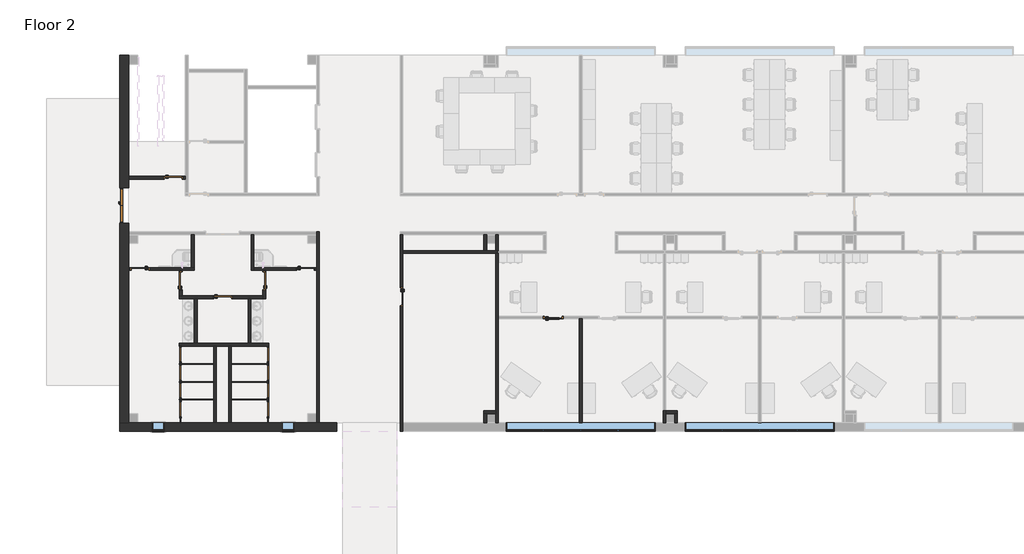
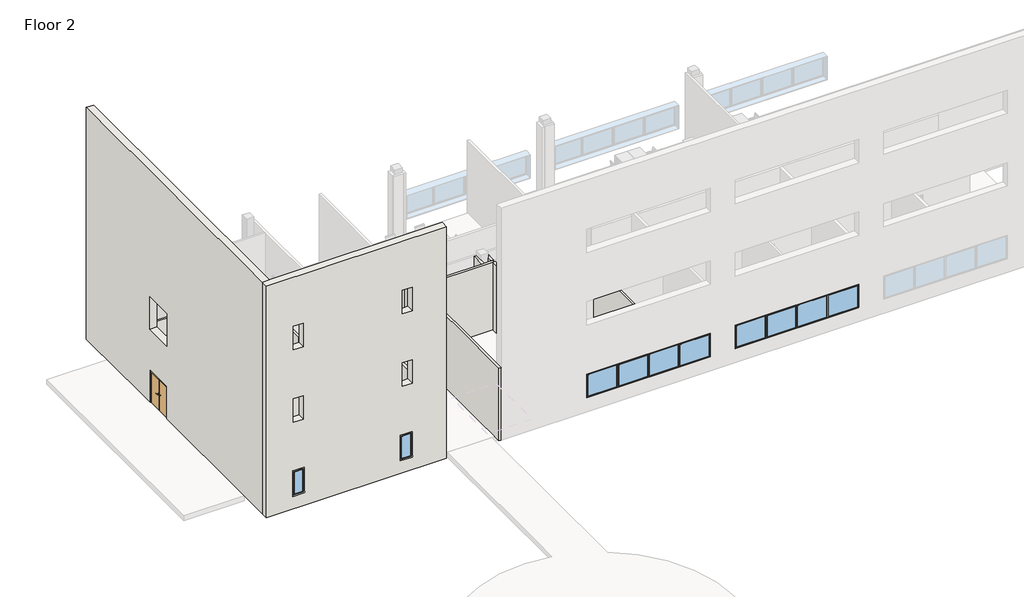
# One storey, part 1 of 6: 41 walls, 17 doors, 4 windows.
"""IFC4 building model written with IfcOpenShell, lengths in millimetres."""

from ifc_helpers import new_model, si_unit, frame, origin, place, context, project, spatial, polyline, outline, extrude, faceted_brep, transform, mapped, element, save
from components import door_efda3cbc, door_36f17018, door_a46f4f49, door_4cfbdd5f, door_b03708da, door_cef5613e, window_casement_multi_sash_horizontal_25_x_5ft_0e5d08e3, window_69ce9bab

model = new_model("IFC4")

# Units and contexts
model_context = context("Model", 3, world=origin())
ifc_project = project(units=[si_unit("LENGTHUNIT", "METRE", prefix="MILLI")], contexts=[model_context])

# Site, building, storey
site = spatial("IfcSite", under=ifc_project)
building = spatial("IfcBuilding", under=site)
storey = spatial("IfcBuildingStorey", under=building, Name="Floor 2", Elevation=5486.4)

# Doors
placement = place(None, origin())
door_shape = door_efda3cbc(model_context)
element("IfcDoor", 1, ObjectType="Door-Passage-Double-Flush : 68\" x 80\"", at=placement, inside=storey, context=model_context, shape_type="MappedRepresentation", body=[
    mapped(door_shape, transform((-3186.4602165, 49707.011889, 5486.4), x_axis=(0.0, 1.0, 0.0), y_axis=(-1.0, 0.0, 0.0), z_axis=(0.0, 0.0, 1.0))),
])
door_2_shape = door_36f17018(model_context)
element("IfcDoor", 2, ObjectType="Door-Passage-Single-Flush : 36\" x 84\"", at=placement, inside=storey, context=model_context, shape_type="MappedRepresentation", body=[
    mapped(door_2_shape, transform((3964.0192024, 45858.911889, 5486.4), x_axis=(0.0, 1.0, 0.0), y_axis=(-1.0, 0.0, 0.0), z_axis=(0.0, 0.0, 1.0))),
])
element("IfcDoor", 3, ObjectType="Door-Passage-Single-Flush : 36\" x 84\"", at=placement, inside=storey, context=model_context, shape_type="MappedRepresentation", body=[
    mapped(door_2_shape, transform((-2380.0102165, 46455.811889, 5486.4), x_axis=(-1.0, 0.0, 0.0), y_axis=(0.0, -1.0, 0.0), z_axis=(0.0, 0.0, 1.0))),
])
door_3_shape = door_a46f4f49(model_context)
element("IfcDoor", 4, ObjectType="Door-Passage-Single-Flush : 36\" x 84\"", at=placement, inside=storey, context=model_context, shape_type="MappedRepresentation", body=[
    mapped(door_3_shape, transform((-684.1807976, 51116.711889, 5486.4), x_axis=(1.0, 0.0, 0.0), y_axis=(0.0, 1.0, 0.0), z_axis=(0.0, 0.0, 1.0))),
])
element("IfcDoor", 5, ObjectType="Door-Passage-Single-Flush : 36\" x 84\"", at=placement, inside=storey, context=model_context, shape_type="MappedRepresentation", body=[
    mapped(door_3_shape, transform((-290.4807976, 45852.561889, 5486.4), x_axis=(0.0, 1.0, 0.0), y_axis=(-1.0, 0.0, 0.0), z_axis=(0.0, 0.0, 1.0))),
])
element("IfcDoor", 6, ObjectType="Door-Passage-Single-Flush : 36\" x 84\"", at=placement, inside=storey, context=model_context, shape_type="MappedRepresentation", body=[
    mapped(door_3_shape, transform((6072.2192024, 46455.811889, 5486.4), x_axis=(1.0, 0.0, 0.0), y_axis=(0.0, 1.0, 0.0), z_axis=(0.0, 0.0, 1.0))),
])
element("IfcDoor", 7, ObjectType="Door-Passage-Single-Flush : 36\" x 84\"", at=placement, inside=storey, context=model_context, shape_type="MappedRepresentation", body=[
    mapped(door_3_shape, transform((1836.7692024, 45008.011889, 5486.4), x_axis=(1.0, 0.0, 0.0), y_axis=(0.0, 1.0, 0.0), z_axis=(0.0, 0.0, 1.0))),
])
element("IfcDoor", 8, ObjectType="Door-Passage-Single-Flush : 36\" x 84\"", at=placement, inside=storey, context=model_context, shape_type="MappedRepresentation", body=[
    mapped(door_3_shape, transform((10974.4192024, 45046.111889, 5486.4), x_axis=(0.0, -1.0, 0.0), y_axis=(1.0, 0.0, 0.0), z_axis=(0.0, 0.0, 1.0))),
])
door_4_shape = door_4cfbdd5f(model_context)
element("IfcDoor", 9, ObjectType="Door-Passage-Single-Full_Lite : 36\" x 84\"", at=placement, inside=storey, context=model_context, shape_type="MappedRepresentation", body=[
    mapped(door_4_shape, transform((18727.7692024, 43985.661889, 5486.4), x_axis=(1.0, 0.0, 0.0), y_axis=(0.0, 1.0, 0.0), z_axis=(0.0, 0.0, 1.0))),
])
door_5_shape = door_b03708da(model_context)
element("IfcDoor", 10, ObjectType="Single-Flush : 30\" x 80\"", at=placement, inside=storey, context=model_context, shape_type="MappedRepresentation", body=[
    mapped(door_5_shape, transform((-322.2307976, 42096.536889, 5486.4), x_axis=(0.0, -1.0, 0.0), y_axis=(1.0, 0.0, 0.0), z_axis=(0.0, 0.0, 1.0))),
])
element("IfcDoor", 11, ObjectType="Single-Flush : 30\" x 80\"", at=placement, inside=storey, context=model_context, shape_type="MappedRepresentation", body=[
    mapped(door_5_shape, transform((-322.2307976, 41169.436889, 5486.4), x_axis=(0.0, -1.0, 0.0), y_axis=(1.0, 0.0, 0.0), z_axis=(0.0, 0.0, 1.0))),
])
element("IfcDoor", 12, ObjectType="Single-Flush : 30\" x 80\"", at=placement, inside=storey, context=model_context, shape_type="MappedRepresentation", body=[
    mapped(door_5_shape, transform((-322.2307976, 40255.036889, 5486.4), x_axis=(0.0, -1.0, 0.0), y_axis=(1.0, 0.0, 0.0), z_axis=(0.0, 0.0, 1.0))),
])
element("IfcDoor", 13, ObjectType="Single-Flush : 30\" x 80\"", at=placement, inside=storey, context=model_context, shape_type="MappedRepresentation", body=[
    mapped(door_5_shape, transform((-322.2307976, 39296.186889, 5486.4), x_axis=(0.0, -1.0, 0.0), y_axis=(1.0, 0.0, 0.0), z_axis=(0.0, 0.0, 1.0))),
])
door_6_shape = door_cef5613e(model_context)
element("IfcDoor", 14, ObjectType="Single-Flush : 30\" x 80\"", at=placement, inside=storey, context=model_context, shape_type="MappedRepresentation", body=[
    mapped(door_6_shape, transform((4148.1692024, 42096.536889, 5486.4), x_axis=(0.0, -1.0, 0.0), y_axis=(1.0, 0.0, 0.0), z_axis=(0.0, 0.0, 1.0))),
])
element("IfcDoor", 15, ObjectType="Single-Flush : 30\" x 80\"", at=placement, inside=storey, context=model_context, shape_type="MappedRepresentation", body=[
    mapped(door_6_shape, transform((4148.1692024, 41169.436889, 5486.4), x_axis=(0.0, -1.0, 0.0), y_axis=(1.0, 0.0, 0.0), z_axis=(0.0, 0.0, 1.0))),
])
element("IfcDoor", 16, ObjectType="Single-Flush : 30\" x 80\"", at=placement, inside=storey, context=model_context, shape_type="MappedRepresentation", body=[
    mapped(door_6_shape, transform((4148.1692024, 40255.036889, 5486.4), x_axis=(0.0, -1.0, 0.0), y_axis=(1.0, 0.0, 0.0), z_axis=(0.0, 0.0, 1.0))),
])
element("IfcDoor", 17, ObjectType="Single-Flush : 30\" x 80\"", at=placement, inside=storey, context=model_context, shape_type="MappedRepresentation", body=[
    mapped(door_6_shape, transform((4148.1692024, 39296.186889, 5486.4), x_axis=(0.0, -1.0, 0.0), y_axis=(1.0, 0.0, 0.0), z_axis=(0.0, 0.0, 1.0))),
])

# Walls
element("IfcWall", 18, ObjectType="Interior - 5 1/2\" Partition (1-hr)", at=placement, inside=storey, context=model_context, shape_type="Brep", body=[
    faceted_brep([(6777.0692024, 38618.324389, 5486.4), (6777.0692024, 48360.811889, 5486.4), (6777.0692024, 48360.811889, 10210.8), (6777.0692024, 38618.324389, 10210.8), (6637.3692024, 38618.324389, 5486.4), (6637.3692024, 38618.324389, 10210.8), (6637.3692024, 48360.811889, 10210.8), (6637.3692024, 48360.811889, 9906.0), (6637.3692024, 48360.811889, 5486.4), (6637.3692024, 48221.111889, 5486.4), (6637.3692024, 46532.011889, 5486.4), (6637.3692024, 46392.311889, 5486.4)], [[[0, 1, 2, 3]], [[4, 5, 6, 7, 8, 9, 10, 11]], [[1, 0, 4, 11, 10, 9, 8]], [[3, 2, 6, 5]], [[2, 1, 8, 7, 6]], [[0, 3, 5, 4]]]),
])
element("IfcWall", 19, ObjectType="Interior - 5 1/2\" Partition (1-hr)", at=placement, inside=storey, context=model_context, shape_type="SweptSolid", body=[
    extrude(outline(polyline([(7721.6, -176.1807976), (5486.4, -176.1807976), (5486.4, -61.8807976), (10210.8, -61.8807976), (10210.8, -2965.7977165), (5486.4, -2965.7977165), (5486.4, -1192.1807976), (7721.6, -1192.1807976), (7721.6, -176.1807976)])), frame((0.0, 51053.211889, 0.0), z_axis=(0.0, 1.0, 0.0), x_axis=(0.0, 0.0, 1.0)), (0.0, 0.0, 1.0), 139.7),
])
element("IfcWall", 20, ObjectType="Interior - 5 1/2\" Partition (1-hr)", at=placement, inside=storey, context=model_context, shape_type="Brep", body=[
    faceted_brep([(3290.9192024, 48221.111889, 5486.4), (3290.9192024, 46392.311889, 5486.4), (3290.9192024, 46392.311889, 9906.0), (3290.9192024, 48221.111889, 9906.0), (3430.6192024, 48221.111889, 5486.4), (3430.6192024, 48221.111889, 9906.0), (3430.6192024, 46532.011889, 9906.0), (3430.6192024, 46392.311889, 9906.0), (3430.6192024, 46392.311889, 5486.4), (3430.6192024, 46532.011889, 5486.4)], [[[0, 1, 2, 3]], [[4, 5, 6, 7, 8, 9]], [[1, 0, 4, 9, 8]], [[2, 1, 8, 7]], [[0, 3, 5, 4]], [[3, 2, 7, 6, 5]]]),
])
element("IfcWall", 21, ObjectType="Interior - 5 1/2\" Partition (1-hr)", at=placement, inside=storey, context=model_context, shape_type="Brep", body=[
    faceted_brep([(6580.2192024, 46392.311889, 7721.6), (6580.2192024, 46392.311889, 5486.4), (6637.3692024, 46392.311889, 5486.4), (6637.3692024, 46392.311889, 9906.0), (4040.2192024, 46392.311889, 9906.0), (3900.5192024, 46392.311889, 9906.0), (3430.6192024, 46392.311889, 9906.0), (3430.6192024, 46392.311889, 5486.4), (3900.5192024, 46392.311889, 5486.4), (4040.2192024, 46392.311889, 5486.4), (5564.2192024, 46392.311889, 5486.4), (5564.2192024, 46392.311889, 7721.6), (6637.3692024, 46532.011889, 5486.4), (6580.2192024, 46532.011889, 5486.4), (6580.2192024, 46532.011889, 7721.6), (5564.2192024, 46532.011889, 7721.6), (5564.2192024, 46532.011889, 5486.4), (3430.6192024, 46532.011889, 5486.4), (3430.6192024, 46532.011889, 9906.0), (6637.3692024, 46532.011889, 9906.0)], [[[0, 1, 2, 3, 4, 5, 6, 7, 8, 9, 10, 11]], [[12, 13, 14, 15, 16, 17, 18, 19]], [[2, 1, 13, 12]], [[10, 9, 8, 7, 17, 16]], [[7, 6, 18, 17]], [[3, 2, 12, 19]], [[6, 5, 4, 3, 19, 18]], [[14, 13, 1, 0]], [[15, 14, 0, 11]], [[16, 15, 11, 10]]]),
])
element("IfcWall", 22, ObjectType="Interior - 5 1/2\" Partition (1-hr)", at=placement, inside=storey, context=model_context, shape_type="Brep", body=[
    faceted_brep([(-2965.7977165, 46392.311889, 10210.8), (382.6192024, 46392.311889, 10210.8), (382.6192024, 46532.011889, 10210.8), (-2965.7977165, 46532.011889, 10210.8), (-2965.7977165, 46392.311889, 5486.4), (-2888.0102165, 46392.311889, 5486.4), (-2888.0102165, 46392.311889, 7721.6), (-1872.0102165, 46392.311889, 7721.6), (-1872.0102165, 46392.311889, 5486.4), (-366.6807976, 46392.311889, 5486.4), (-226.9807976, 46392.311889, 5486.4), (382.6192024, 46392.311889, 5486.4), (-2888.0102165, 46532.011889, 7721.6), (-2888.0102165, 46532.011889, 5486.4), (-2965.7977165, 46532.011889, 5486.4), (382.6192024, 46532.011889, 9906.0), (382.6192024, 46532.011889, 5486.4), (242.9192024, 46532.011889, 5486.4), (-1872.0102165, 46532.011889, 5486.4), (-1872.0102165, 46532.011889, 7721.6)], [[[0, 1, 2, 3]], [[4, 5, 6, 7, 8, 9, 10, 11, 1, 0]], [[12, 13, 14, 3, 2, 15, 16, 17, 18, 19]], [[14, 13, 5, 4]], [[18, 17, 16, 11, 10, 9, 8]], [[1, 11, 16, 15, 2]], [[4, 0, 3, 14]], [[6, 5, 13, 12]], [[7, 6, 12, 19]], [[8, 7, 19, 18]]]),
])
element("IfcWall", 23, ObjectType="Interior - 5 1/2\" Partition (1-hr)", at=placement, inside=storey, context=model_context, shape_type="SweptSolid", body=[
    extrude(outline(polyline([(382.6192024, 48221.111889), (382.6192024, 46532.011889), (242.9192024, 46532.011889), (242.9192024, 48221.111889), (382.6192024, 48221.111889)])), frame((0.0, 0.0, 5486.4), z_axis=(0.0, 0.0, 1.0), x_axis=(1.0, 0.0, 0.0)), (0.0, 0.0, 1.0), 4419.6),
])
element("IfcWall", 24, ObjectType="Interior - 5 1/2\" Partition (1-hr)", at=placement, inside=storey, context=model_context, shape_type="Brep", body=[
    faceted_brep([(3900.5192024, 46392.311889, 5486.4), (3900.5192024, 46366.911889, 5486.4), (3900.5192024, 46366.911889, 7721.6), (3900.5192024, 45350.911889, 7721.6), (3900.5192024, 45350.911889, 5486.4), (3900.5192024, 45084.211889, 5486.4), (3900.5192024, 44944.511889, 5486.4), (3900.5192024, 44944.511889, 9906.0), (3900.5192024, 45084.211889, 9906.0), (3900.5192024, 46392.311889, 9906.0), (4040.2192024, 46366.911889, 7721.6), (4040.2192024, 46366.911889, 5486.4), (4040.2192024, 46392.311889, 5486.4), (4040.2192024, 46392.311889, 9906.0), (4040.2192024, 44944.511889, 9906.0), (4040.2192024, 44944.511889, 5486.4), (4040.2192024, 45350.911889, 5486.4), (4040.2192024, 45350.911889, 7721.6)], [[[0, 1, 2, 3, 4, 5, 6, 7, 8, 9]], [[10, 11, 12, 13, 14, 15, 16, 17]], [[12, 11, 1, 0]], [[16, 15, 6, 5, 4]], [[0, 9, 13, 12]], [[7, 6, 15, 14]], [[9, 8, 7, 14, 13]], [[2, 1, 11, 10]], [[3, 2, 10, 17]], [[4, 3, 17, 16]]]),
])
element("IfcWall", 25, ObjectType="Interior - 5 1/2\" Partition (1-hr)", at=placement, inside=storey, context=model_context, shape_type="Brep", body=[
    faceted_brep([(3900.5192024, 45084.211889, 5486.4), (2344.7692024, 45084.211889, 5486.4), (2344.7692024, 45084.211889, 7721.6), (1328.7692024, 45084.211889, 7721.6), (1328.7692024, 45084.211889, 5486.4), (-226.9807976, 45084.211889, 5486.4), (-366.6807976, 45084.211889, 5486.4), (-366.6807976, 45084.211889, 9906.0), (-226.9807976, 45084.211889, 9906.0), (3900.5192024, 45084.211889, 9906.0), (2344.7692024, 44944.511889, 7721.6), (2344.7692024, 44944.511889, 5486.4), (3138.5192024, 44944.511889, 5486.4), (3278.2192024, 44944.511889, 5486.4), (3900.5192024, 44944.511889, 5486.4), (3900.5192024, 44944.511889, 9906.0), (3278.2192024, 44944.511889, 9906.0), (3138.5192024, 44944.511889, 9906.0), (535.0192024, 44944.511889, 9906.0), (395.3192024, 44944.511889, 9906.0), (-366.6807976, 44944.511889, 9906.0), (-366.6807976, 44944.511889, 5486.4), (395.3192024, 44944.511889, 5486.4), (535.0192024, 44944.511889, 5486.4), (1328.7692024, 44944.511889, 5486.4), (1328.7692024, 44944.511889, 7721.6)], [[[0, 1, 2, 3, 4, 5, 6, 7, 8, 9]], [[10, 11, 12, 13, 14, 15, 16, 17, 18, 19, 20, 21, 22, 23, 24, 25]], [[14, 13, 12, 11, 1, 0]], [[24, 23, 22, 21, 6, 5, 4]], [[0, 9, 15, 14]], [[7, 6, 21, 20]], [[9, 8, 7, 20, 19, 18, 17, 16, 15]], [[2, 1, 11, 10]], [[3, 2, 10, 25]], [[4, 3, 25, 24]]]),
])
element("IfcWall", 26, ObjectType="Interior - 5 1/2\" Partition (1-hr)", at=placement, inside=storey, context=model_context, shape_type="Brep", body=[
    faceted_brep([(2147.9192024, 42518.811889, 5486.4), (2147.9192024, 38618.324389, 5486.4), (2147.9192024, 38618.324389, 10210.8), (2147.9192024, 42518.811889, 10210.8), (2287.6192024, 42518.811889, 5486.4), (2287.6192024, 42518.811889, 10210.8), (2287.6192024, 38618.324389, 10210.8), (2287.6192024, 38618.324389, 5486.4), (2287.6192024, 39788.311889, 5486.4), (2287.6192024, 39813.711889, 5486.4), (2287.6192024, 40677.311889, 5486.4), (2287.6192024, 40702.711889, 5486.4), (2287.6192024, 41591.711889, 5486.4), (2287.6192024, 41617.111889, 5486.4)], [[[0, 1, 2, 3]], [[4, 5, 6, 7, 8, 9, 10, 11, 12, 13]], [[1, 0, 4, 13, 12, 11, 10, 9, 8, 7]], [[3, 2, 6, 5]], [[0, 3, 5, 4]], [[2, 1, 7, 6]]]),
])
element("IfcWall", 27, ObjectType="Interior - 5 1/2\" Partition (1-hr)", at=placement, inside=storey, context=model_context, shape_type="Brep", body=[
    faceted_brep([(-373.0307976, 42518.811889, 5486.4), (-334.9307976, 42518.811889, 5486.4), (-309.5307976, 42518.811889, 5486.4), (1385.9192024, 42518.811889, 5486.4), (1525.6192024, 42518.811889, 5486.4), (2147.9192024, 42518.811889, 5486.4), (2287.6192024, 42518.811889, 5486.4), (4135.4692024, 42518.811889, 5486.4), (4160.8692024, 42518.811889, 5486.4), (4198.9692024, 42518.811889, 5486.4), (4198.9692024, 42518.811889, 9906.0), (-373.0307976, 42518.811889, 9906.0), (-373.0307976, 42658.511889, 5486.4), (-373.0307976, 42658.511889, 9906.0), (395.3192024, 42658.511889, 9906.0), (535.0192024, 42658.511889, 9906.0), (3138.5192024, 42658.511889, 9906.0), (3278.2192024, 42658.511889, 9906.0), (4198.9692024, 42658.511889, 9906.0), (4198.9692024, 42658.511889, 5486.4), (3278.2192024, 42658.511889, 5486.4), (3138.5192024, 42658.511889, 5486.4), (535.0192024, 42658.511889, 5486.4), (395.3192024, 42658.511889, 5486.4)], [[[0, 1, 2, 3, 4, 5, 6, 7, 8, 9, 10, 11]], [[12, 13, 14, 15, 16, 17, 18, 19, 20, 21, 22, 23]], [[9, 8, 7, 6, 5, 4, 3, 2, 1, 0, 12, 23, 22, 21, 20, 19]], [[10, 9, 19, 18]], [[0, 11, 13, 12]], [[11, 10, 18, 17, 16, 15, 14, 13]]]),
])
element("IfcWall", 28, ObjectType="Interior - 5 1/2\" Partition (1-hr)", at=placement, inside=storey, context=model_context, shape_type="SweptSolid", body=[
    extrude(outline(polyline([(3278.2192024, 44944.511889), (3278.2192024, 42658.511889), (3138.5192024, 42658.511889), (3138.5192024, 44944.511889), (3278.2192024, 44944.511889)])), frame((0.0, 0.0, 5486.4), z_axis=(0.0, 0.0, 1.0), x_axis=(1.0, 0.0, 0.0)), (0.0, 0.0, 1.0), 4419.6),
])
element("IfcWall", 29, ObjectType="Interior - 5 1/2\" Partition (1-hr)", at=placement, inside=storey, context=model_context, shape_type="Brep", body=[
    faceted_brep([(1385.9192024, 42518.811889, 5486.4), (1385.9192024, 41617.111889, 5486.4), (1385.9192024, 41591.711889, 5486.4), (1385.9192024, 40702.711889, 5486.4), (1385.9192024, 40677.311889, 5486.4), (1385.9192024, 39813.711889, 5486.4), (1385.9192024, 39788.311889, 5486.4), (1385.9192024, 38618.324389, 5486.4), (1385.9192024, 38618.324389, 10210.8), (1385.9192024, 42518.811889, 10210.8), (1525.6192024, 42518.811889, 5486.4), (1525.6192024, 42518.811889, 10210.8), (1525.6192024, 38618.324389, 10210.8), (1525.6192024, 38618.324389, 5486.4)], [[[0, 1, 2, 3, 4, 5, 6, 7, 8, 9]], [[10, 11, 12, 13]], [[7, 6, 5, 4, 3, 2, 1, 0, 10, 13]], [[9, 8, 12, 11]], [[0, 9, 11, 10]], [[8, 7, 13, 12]]]),
])
element("IfcWall", 30, ObjectType="Interior - 5 1/2\" Partition (1-hr)", at=placement, inside=storey, context=model_context, shape_type="SweptSolid", body=[
    extrude(outline(polyline([(46392.311889, 5486.4), (46360.561889, 5486.4), (46360.561889, 7721.6), (45344.561889, 7721.6), (45344.561889, 5486.4), (45084.211889, 5486.4), (45084.211889, 9906.0), (46392.311889, 9906.0), (46392.311889, 5486.4)])), frame((-366.6807976, 0.0, 0.0), z_axis=(1.0, 0.0, 0.0), x_axis=(0.0, 1.0, 0.0)), (0.0, 0.0, 1.0), 139.7),
])
element("IfcWall", 31, ObjectType="Interior - 5 1/2\" Partition (1-hr)", at=placement, inside=storey, context=model_context, shape_type="SweptSolid", body=[
    extrude(outline(polyline([(395.3192024, 42658.511889), (395.3192024, 44944.511889), (535.0192024, 44944.511889), (535.0192024, 42658.511889), (395.3192024, 42658.511889)])), frame((0.0, 0.0, 5486.4), z_axis=(0.0, 0.0, 1.0), x_axis=(1.0, 0.0, 0.0)), (0.0, 0.0, 1.0), 4419.6),
])
element("IfcWall", 32, ObjectType="Interior - 5 1/2\" Partition (1-hr)", at=placement, inside=storey, context=model_context, shape_type="Brep", body=[
    faceted_brep([(10910.9192024, 48221.111889, 10210.8), (10910.9192024, 38164.299389, 10210.8), (11050.6192024, 38164.299389, 10210.8), (11050.6192024, 48221.111889, 10210.8), (11050.6192024, 38164.299389, 5486.4), (11050.6192024, 38618.324389, 5486.4), (11050.6192024, 44538.111889, 5486.4), (11050.6192024, 44538.111889, 7721.6), (11050.6192024, 45554.111889, 7721.6), (11050.6192024, 45554.111889, 5486.4), (11050.6192024, 47262.261889, 5486.4), (11050.6192024, 47401.961889, 5486.4), (11050.6192024, 48221.111889, 5486.4), (10910.9192024, 48221.111889, 9906.0), (10910.9192024, 48221.111889, 5486.4), (10910.9192024, 45554.111889, 5486.4), (10910.9192024, 45554.111889, 7721.6), (10910.9192024, 44538.111889, 7721.6), (10910.9192024, 44538.111889, 5486.4), (10910.9192024, 38164.299389, 5486.4)], [[[0, 1, 2, 3]], [[3, 2, 4, 5, 6, 7, 8, 9, 10, 11, 12]], [[1, 0, 13, 14, 15, 16, 17, 18, 19]], [[14, 12, 11, 10, 9, 15]], [[4, 19, 18, 6, 5]], [[14, 13, 0, 3, 12]], [[1, 19, 4, 2]], [[17, 7, 6, 18]], [[7, 17, 16, 8]], [[8, 16, 15, 9]]]),
])
element("IfcWall", 33, ObjectType="Interior - 5 1/2\" Partition (1-hr)", at=placement, inside=storey, context=model_context, shape_type="Brep", body=[
    faceted_brep([(15324.1692024, 47401.961889, 5486.4), (15324.1692024, 47763.911889, 5486.4), (15324.1692024, 48221.111889, 5486.4), (15324.1692024, 48221.111889, 9906.0), (15324.1692024, 47401.961889, 9906.0), (15184.4692024, 47401.961889, 5486.4), (15184.4692024, 47401.961889, 9906.0), (15184.4692024, 48221.111889, 9906.0), (15184.4692024, 48221.111889, 5486.4)], [[[0, 1, 2, 3, 4]], [[5, 6, 7, 8]], [[2, 1, 0, 5, 8]], [[0, 4, 6, 5]], [[3, 2, 8, 7]], [[4, 3, 7, 6]]]),
])
element("IfcWall", 34, ObjectType="Interior - 5 1/2\" Partition (1-hr)", at=placement, inside=storey, context=model_context, shape_type="Brep", body=[
    faceted_brep([(15921.0692024, 47401.961889, 5486.4), (15921.0692024, 48221.111889, 5486.4), (15921.0692024, 48221.111889, 9906.0), (15921.0692024, 47401.961889, 9906.0), (15781.3692024, 47401.961889, 5486.4), (15781.3692024, 47401.961889, 9906.0), (15781.3692024, 48221.111889, 9906.0), (15781.3692024, 48221.111889, 5486.4), (15781.3692024, 47763.911889, 5486.4), (15851.2192024, 47401.961889, 5486.4), (15851.2192024, 47401.961889, 9906.0)], [[[0, 1, 2, 3]], [[4, 5, 6, 7, 8]], [[1, 0, 9, 4, 8, 7]], [[0, 3, 10, 5, 4, 9]], [[2, 1, 7, 6]], [[3, 2, 6, 5, 10]]]),
])
element("IfcWall", 35, ObjectType="Interior - 5 1/2\" Partition (1-hr)", at=placement, inside=storey, context=model_context, shape_type="Brep", body=[
    faceted_brep([(15921.0692024, 47262.261889, 5486.4), (15921.0692024, 47262.261889, 9906.0), (15921.0692024, 38618.324389, 9906.0), (15921.0692024, 38618.324389, 5486.4), (15921.0692024, 43909.461889, 5486.4), (15921.0692024, 44049.161889, 5486.4), (15781.3692024, 47262.261889, 5486.4), (15781.3692024, 39216.811889, 5486.4), (15781.3692024, 39077.111889, 5486.4), (15781.3692024, 38619.911889, 5486.4), (15781.3692024, 38618.324389, 5486.4), (15781.3692024, 38618.324389, 9906.0), (15781.3692024, 39077.111889, 9906.0), (15781.3692024, 39216.811889, 9906.0), (15781.3692024, 47262.261889, 9906.0), (15851.2192024, 47262.261889, 5486.4), (15851.2192024, 47262.261889, 9906.0)], [[[0, 1, 2, 3, 4, 5]], [[6, 7, 8, 9, 10, 11, 12, 13, 14]], [[10, 9, 8, 7, 6, 15, 0, 5, 4, 3]], [[14, 13, 12, 11, 2, 1, 16]], [[6, 14, 16, 1, 0, 15]], [[11, 10, 3, 2]]]),
])
element("IfcWall", 36, ObjectType="Interior - 5 1/2\" Partition (1-hr)", at=placement, inside=storey, context=model_context, shape_type="Brep", body=[
    faceted_brep([(15781.3692024, 39216.811889, 5486.4), (15184.4692024, 39216.811889, 5486.4), (15184.4692024, 39216.811889, 9906.0), (15781.3692024, 39216.811889, 9906.0), (15781.3692024, 39077.111889, 5486.4), (15781.3692024, 39077.111889, 9906.0), (15324.1692024, 39077.111889, 9906.0), (15184.4692024, 39077.111889, 9906.0), (15184.4692024, 39077.111889, 5486.4), (15324.1692024, 39077.111889, 5486.4)], [[[0, 1, 2, 3]], [[4, 5, 6, 7, 8, 9]], [[1, 0, 4, 9, 8]], [[2, 1, 8, 7]], [[0, 3, 5, 4]], [[3, 2, 7, 6, 5]]]),
])
element("IfcWall", 37, ObjectType="Interior - 5 1/2\" Partition (1-hr)", at=placement, inside=storey, context=model_context, shape_type="Brep", body=[
    faceted_brep([(15184.4692024, 39077.111889, 5486.4), (15184.4692024, 38618.324389, 5486.4), (15184.4692024, 38618.324389, 9906.0), (15184.4692024, 39077.111889, 9906.0), (15324.1692024, 39077.111889, 5486.4), (15324.1692024, 39077.111889, 9906.0), (15324.1692024, 38618.324389, 9906.0), (15324.1692024, 38618.324389, 5486.4), (15324.1692024, 38619.911889, 5486.4)], [[[0, 1, 2, 3]], [[4, 5, 6, 7, 8]], [[1, 0, 4, 8, 7]], [[0, 3, 5, 4]], [[2, 1, 7, 6]], [[3, 2, 6, 5]]]),
])
element("IfcWall", 38, ObjectType="Interior - 5 1/2\" Partition (1-hr)", at=placement, inside=storey, context=model_context, shape_type="Brep", body=[
    faceted_brep([(24468.1692024, 38618.324389, 5486.4), (24468.1692024, 38619.911889, 5486.4), (24468.1692024, 39077.111889, 5486.4), (24468.1692024, 39216.811889, 5486.4), (24468.1692024, 39216.811889, 9906.0), (24468.1692024, 39077.111889, 9906.0), (24468.1692024, 38618.324389, 9906.0), (24328.4692024, 38618.324389, 5486.4), (24328.4692024, 38618.324389, 9906.0), (24328.4692024, 39216.811889, 9906.0), (24328.4692024, 39216.811889, 5486.4)], [[[0, 1, 2, 3, 4, 5, 6]], [[7, 8, 9, 10]], [[3, 2, 1, 0, 7, 10]], [[4, 3, 10, 9]], [[0, 6, 8, 7]], [[6, 5, 4, 9, 8]]]),
])
element("IfcWall", 39, ObjectType="Interior - 5 1/2\" Partition (1-hr)", at=placement, inside=storey, context=model_context, shape_type="Brep", body=[
    faceted_brep([(24468.1692024, 39077.111889, 5486.4), (24925.3692024, 39077.111889, 5486.4), (25065.0692024, 39077.111889, 5486.4), (25065.0692024, 39077.111889, 9906.0), (24925.3692024, 39077.111889, 9906.0), (24468.1692024, 39077.111889, 9906.0), (24468.1692024, 39216.811889, 5486.4), (24468.1692024, 39216.811889, 9906.0), (25065.0692024, 39216.811889, 9906.0), (25065.0692024, 39216.811889, 5486.4)], [[[0, 1, 2, 3, 4, 5]], [[6, 7, 8, 9]], [[2, 1, 0, 6, 9]], [[3, 2, 9, 8]], [[0, 5, 7, 6]], [[5, 4, 3, 8, 7]]]),
])
element("IfcWall", 40, ObjectType="Interior - 5 1/2\" Partition (1-hr)", at=placement, inside=storey, context=model_context, shape_type="Brep", body=[
    faceted_brep([(24925.3692024, 39077.111889, 5486.4), (24925.3692024, 38619.911889, 5486.4), (24925.3692024, 38618.324389, 5486.4), (24925.3692024, 38618.324389, 9906.0), (24925.3692024, 39077.111889, 9906.0), (25065.0692024, 39077.111889, 5486.4), (25065.0692024, 39077.111889, 9906.0), (25065.0692024, 38618.324389, 9906.0), (25065.0692024, 38618.324389, 5486.4)], [[[0, 1, 2, 3, 4]], [[5, 6, 7, 8]], [[2, 1, 0, 5, 8]], [[0, 4, 6, 5]], [[3, 2, 8, 7]], [[4, 3, 7, 6]]]),
])
element("IfcWall", 41, ObjectType="Interior - 5 1/2\" Partition (1-hr)", at=placement, inside=storey, context=model_context, shape_type="SweptSolid", body=[
    extrude(outline(polyline([(20054.9192024, 38618.324389), (20054.9192024, 43909.461889), (20194.6192024, 43909.461889), (20194.6192024, 38618.324389), (20054.9192024, 38618.324389)])), frame((0.0, 0.0, 5486.4), z_axis=(0.0, 0.0, 1.0), x_axis=(1.0, 0.0, 0.0)), (0.0, 0.0, 1.0), 4724.4),
])
element("IfcWall", 42, ObjectType="Interior - 5 1/2\" Partition (1-hr)", at=placement, inside=storey, context=model_context, shape_type="Brep", body=[
    faceted_brep([(15851.2192024, 47401.961889, 5486.4), (15781.3692024, 47401.961889, 5486.4), (15324.1692024, 47401.961889, 5486.4), (15184.4692024, 47401.961889, 5486.4), (11050.6192024, 47401.961889, 5486.4), (11050.6192024, 47401.961889, 9906.0), (15184.4692024, 47401.961889, 9906.0), (15324.1692024, 47401.961889, 9906.0), (15781.3692024, 47401.961889, 9906.0), (15851.2192024, 47401.961889, 9906.0), (15851.2192024, 47262.261889, 5486.4), (15851.2192024, 47262.261889, 9906.0), (15781.3692024, 47262.261889, 9906.0), (11050.6192024, 47262.261889, 9906.0), (11050.6192024, 47262.261889, 5486.4), (15781.3692024, 47262.261889, 5486.4)], [[[0, 1, 2, 3, 4, 5, 6, 7, 8, 9]], [[10, 11, 12, 13, 14, 15]], [[4, 3, 2, 1, 0, 10, 15, 14]], [[0, 9, 11, 10]], [[5, 4, 14, 13]], [[9, 8, 7, 6, 5, 13, 12, 11]]]),
])
element("IfcWall", 43, ObjectType="Stone on CMU", at=placement, inside=storey, context=model_context, shape_type="Brep", body=[
    faceted_brep([(7675.2526119, 38618.324389, 20574.0), (-2965.7977165, 38618.324389, 20574.0), (-3419.8227165, 38618.324389, 20574.0), (-3419.8227165, 38164.299389, 20574.0), (7675.2526119, 38164.299389, 20574.0), (7675.2526119, 38618.324389, 5486.4), (6777.0692024, 38618.324389, 5486.4), (6637.3692024, 38618.324389, 5486.4), (4160.8692024, 38618.324389, 5486.4), (4135.4692024, 38618.324389, 5486.4), (2287.6192024, 38618.324389, 5486.4), (2147.9192024, 38618.324389, 5486.4), (1525.6192024, 38618.324389, 5486.4), (1385.9192024, 38618.324389, 5486.4), (-309.5307976, 38618.324389, 5486.4), (-334.9307976, 38618.324389, 5486.4), (-2965.7977165, 38618.324389, 5486.4), (-3419.8227165, 38618.324389, 5486.4), (7675.2526119, 38618.324389, 19659.6), (-1750.9807976, 38618.324389, 17373.6), (-1750.9807976, 38618.324389, 15849.6), (-1141.3807976, 38618.324389, 15849.6), (-1141.3807976, 38618.324389, 17373.6), (4954.6192024, 38618.324389, 17373.6), (4954.6192024, 38618.324389, 15849.6), (5564.2192024, 38618.324389, 15849.6), (5564.2192024, 38618.324389, 17373.6), (-1750.9807976, 38618.324389, 12649.2), (-1750.9807976, 38618.324389, 11125.2), (-1141.3807976, 38618.324389, 11125.2), (-1141.3807976, 38618.324389, 12649.2), (4954.6192024, 38618.324389, 12649.2), (4954.6192024, 38618.324389, 11125.2), (5564.2192024, 38618.324389, 11125.2), (5564.2192024, 38618.324389, 12649.2), (-1750.9807976, 38618.324389, 7924.8), (-1750.9807976, 38618.324389, 6400.8), (-1141.3807976, 38618.324389, 6400.8), (-1141.3807976, 38618.324389, 7924.8), (4884.7692024, 38618.324389, 7924.8), (4884.7692024, 38618.324389, 6400.8), (5494.3692024, 38618.324389, 6400.8), (5494.3692024, 38618.324389, 7924.8), (7675.2526119, 38164.299389, 5486.4), (-3419.8227165, 38164.299389, 5486.4), (-1750.9807976, 38164.299389, 17373.6), (-1141.3807976, 38164.299389, 17373.6), (-1141.3807976, 38164.299389, 15849.6), (-1750.9807976, 38164.299389, 15849.6), (4954.6192024, 38164.299389, 17373.6), (5564.2192024, 38164.299389, 17373.6), (5564.2192024, 38164.299389, 15849.6), (4954.6192024, 38164.299389, 15849.6), (-1750.9807976, 38164.299389, 12649.2), (-1141.3807976, 38164.299389, 12649.2), (-1141.3807976, 38164.299389, 11125.2), (-1750.9807976, 38164.299389, 11125.2), (4954.6192024, 38164.299389, 12649.2), (5564.2192024, 38164.299389, 12649.2), (5564.2192024, 38164.299389, 11125.2), (4954.6192024, 38164.299389, 11125.2), (-1750.9807976, 38164.299389, 7924.8), (-1141.3807976, 38164.299389, 7924.8), (-1141.3807976, 38164.299389, 6400.8), (-1750.9807976, 38164.299389, 6400.8), (4884.7692024, 38164.299389, 7924.8), (5494.3692024, 38164.299389, 7924.8), (5494.3692024, 38164.299389, 6400.8), (4884.7692024, 38164.299389, 6400.8)], [[[0, 1, 2, 3, 4]], [[5, 6, 7, 8, 9, 10, 11, 12, 13, 14, 15, 16, 17, 2, 1, 0, 18], [19, 20, 21, 22], [23, 24, 25, 26], [27, 28, 29, 30], [31, 32, 33, 34], [35, 36, 37, 38], [39, 40, 41, 42]], [[43, 4, 3, 44], [45, 46, 47, 48], [49, 50, 51, 52], [53, 54, 55, 56], [57, 58, 59, 60], [61, 62, 63, 64], [65, 66, 67, 68]], [[17, 16, 15, 14, 13, 12, 11, 10, 9, 8, 7, 6, 5, 43, 44]], [[2, 17, 44, 3]], [[5, 18, 0, 4, 43]], [[20, 19, 45, 48]], [[21, 20, 48, 47]], [[22, 21, 47, 46]], [[19, 22, 46, 45]], [[24, 23, 49, 52]], [[25, 24, 52, 51]], [[26, 25, 51, 50]], [[23, 26, 50, 49]], [[28, 27, 53, 56]], [[29, 28, 56, 55]], [[30, 29, 55, 54]], [[27, 30, 54, 53]], [[32, 31, 57, 60]], [[33, 32, 60, 59]], [[34, 33, 59, 58]], [[31, 34, 58, 57]], [[36, 35, 61, 64]], [[37, 36, 64, 63]], [[38, 37, 63, 62]], [[35, 38, 62, 61]], [[40, 39, 65, 68]], [[41, 40, 68, 67]], [[42, 41, 67, 66]], [[39, 42, 66, 65]]]),
])
element("IfcWall", 44, ObjectType="Stone on CMU", at=placement, inside=storey, context=model_context, shape_type="Brep", body=[
    faceted_brep([(-2965.7977165, 38618.324389, 20574.0), (-2965.7977165, 57366.699389, 20574.0), (-3419.8227165, 57366.699389, 20574.0), (-3419.8227165, 38618.324389, 20574.0), (-2965.7977165, 38618.324389, 5486.4), (-2965.7977165, 46392.311889, 5486.4), (-2965.7977165, 46532.011889, 5486.4), (-2965.7977165, 48221.111889, 5486.4), (-2965.7977165, 48360.811889, 5486.4), (-2965.7977165, 48792.611889, 5486.4), (-2965.7977165, 48792.611889, 7620.0), (-2965.7977165, 50621.411889, 7620.0), (-2965.7977165, 50621.411889, 5486.4), (-2965.7977165, 51053.211889, 5486.4), (-2965.7977165, 51192.911889, 5486.4), (-2965.7977165, 57366.699389, 5486.4), (-2965.7977165, 50621.411889, 10210.8), (-2965.7977165, 48792.611889, 10210.8), (-2965.7977165, 48792.611889, 12344.4), (-2965.7977165, 50621.411889, 12344.4), (-3419.8227165, 57366.699389, 5486.4), (-3419.8227165, 50621.411889, 5486.4), (-3419.8227165, 50621.411889, 7620.0), (-3419.8227165, 48792.611889, 7620.0), (-3419.8227165, 48792.611889, 5486.4), (-3419.8227165, 38618.324389, 5486.4), (-3419.8227165, 50621.411889, 10210.8), (-3419.8227165, 50621.411889, 12344.4), (-3419.8227165, 48792.611889, 12344.4), (-3419.8227165, 48792.611889, 10210.8)], [[[0, 1, 2, 3]], [[1, 0, 4, 5, 6, 7, 8, 9, 10, 11, 12, 13, 14, 15], [16, 17, 18, 19]], [[3, 2, 20, 21, 22, 23, 24, 25], [26, 27, 28, 29]], [[4, 25, 24, 9, 8, 7, 6, 5]], [[20, 15, 14, 13, 12, 21]], [[4, 0, 3, 25]], [[1, 15, 20, 2]], [[11, 22, 21, 12]], [[22, 11, 10, 23]], [[23, 10, 9, 24]], [[27, 26, 16, 19]], [[28, 27, 19, 18]], [[29, 28, 18, 17]], [[26, 29, 17, 16]]]),
])
element("IfcWall", 45, ObjectType="toilet partition - 1\"", at=placement, inside=storey, context=model_context, shape_type="Brep", body=[
    faceted_brep([(2287.6192024, 39788.311889, 5486.4), (4135.4692024, 39788.311889, 5486.4), (4160.8692024, 39788.311889, 5486.4), (4198.9692024, 39788.311889, 5486.4), (4198.9692024, 39788.311889, 7924.8), (4160.8692024, 39788.311889, 7924.8), (4135.4692024, 39788.311889, 7924.8), (2287.6192024, 39788.311889, 7924.8), (2287.6192024, 39813.711889, 5486.4), (2287.6192024, 39813.711889, 7924.8), (4135.4692024, 39813.711889, 7924.8), (4160.8692024, 39813.711889, 7924.8), (4198.9692024, 39813.711889, 7924.8), (4198.9692024, 39813.711889, 5486.4), (4160.8692024, 39813.711889, 5486.4), (4135.4692024, 39813.711889, 5486.4)], [[[0, 1, 2, 3, 4, 5, 6, 7]], [[8, 9, 10, 11, 12, 13, 14, 15]], [[3, 2, 1, 0, 8, 15, 14, 13]], [[4, 3, 13, 12]], [[7, 6, 5, 4, 12, 11, 10, 9]], [[0, 7, 9, 8]]]),
])
element("IfcWall", 46, ObjectType="toilet partition - 1\"", at=placement, inside=storey, context=model_context, shape_type="Brep", body=[
    faceted_brep([(2287.6192024, 40677.311889, 5486.4), (4135.4692024, 40677.311889, 5486.4), (4160.8692024, 40677.311889, 5486.4), (4198.9692024, 40677.311889, 5486.4), (4198.9692024, 40677.311889, 7924.8), (4160.8692024, 40677.311889, 7924.8), (4135.4692024, 40677.311889, 7924.8), (2287.6192024, 40677.311889, 7924.8), (2287.6192024, 40702.711889, 5486.4), (2287.6192024, 40702.711889, 7924.8), (4135.4692024, 40702.711889, 7924.8), (4160.8692024, 40702.711889, 7924.8), (4198.9692024, 40702.711889, 7924.8), (4198.9692024, 40702.711889, 5486.4), (4160.8692024, 40702.711889, 5486.4), (4135.4692024, 40702.711889, 5486.4)], [[[0, 1, 2, 3, 4, 5, 6, 7]], [[8, 9, 10, 11, 12, 13, 14, 15]], [[3, 2, 1, 0, 8, 15, 14, 13]], [[4, 3, 13, 12]], [[7, 6, 5, 4, 12, 11, 10, 9]], [[0, 7, 9, 8]]]),
])
element("IfcWall", 47, ObjectType="toilet partition - 1\"", at=placement, inside=storey, context=model_context, shape_type="Brep", body=[
    faceted_brep([(2287.6192024, 41591.711889, 5486.4), (4135.4692024, 41591.711889, 5486.4), (4160.8692024, 41591.711889, 5486.4), (4198.9692024, 41591.711889, 5486.4), (4198.9692024, 41591.711889, 7924.8), (4160.8692024, 41591.711889, 7924.8), (4135.4692024, 41591.711889, 7924.8), (2287.6192024, 41591.711889, 7924.8), (2287.6192024, 41617.111889, 5486.4), (2287.6192024, 41617.111889, 7924.8), (4135.4692024, 41617.111889, 7924.8), (4160.8692024, 41617.111889, 7924.8), (4198.9692024, 41617.111889, 7924.8), (4198.9692024, 41617.111889, 5486.4), (4160.8692024, 41617.111889, 5486.4), (4135.4692024, 41617.111889, 5486.4)], [[[0, 1, 2, 3, 4, 5, 6, 7]], [[8, 9, 10, 11, 12, 13, 14, 15]], [[3, 2, 1, 0, 8, 15, 14, 13]], [[4, 3, 13, 12]], [[7, 6, 5, 4, 12, 11, 10, 9]], [[0, 7, 9, 8]]]),
])
element("IfcWall", 48, ObjectType="toilet partition - 1\"", at=placement, inside=storey, context=model_context, shape_type="Brep", body=[
    faceted_brep([(1385.9192024, 41617.111889, 5486.4), (-309.5307976, 41617.111889, 5486.4), (-334.9307976, 41617.111889, 5486.4), (-373.0307976, 41617.111889, 5486.4), (-373.0307976, 41617.111889, 7924.8), (-334.9307976, 41617.111889, 7924.8), (-309.5307976, 41617.111889, 7924.8), (1385.9192024, 41617.111889, 7924.8), (1385.9192024, 41591.711889, 5486.4), (1385.9192024, 41591.711889, 7924.8), (-309.5307976, 41591.711889, 7924.8), (-334.9307976, 41591.711889, 7924.8), (-373.0307976, 41591.711889, 7924.8), (-373.0307976, 41591.711889, 5486.4), (-334.9307976, 41591.711889, 5486.4), (-309.5307976, 41591.711889, 5486.4)], [[[0, 1, 2, 3, 4, 5, 6, 7]], [[8, 9, 10, 11, 12, 13, 14, 15]], [[3, 2, 1, 0, 8, 15, 14, 13]], [[4, 3, 13, 12]], [[7, 6, 5, 4, 12, 11, 10, 9]], [[0, 7, 9, 8]]]),
])
element("IfcWall", 49, ObjectType="toilet partition - 1\"", at=placement, inside=storey, context=model_context, shape_type="Brep", body=[
    faceted_brep([(1385.9192024, 40702.711889, 5486.4), (-309.5307976, 40702.711889, 5486.4), (-334.9307976, 40702.711889, 5486.4), (-373.0307976, 40702.711889, 5486.4), (-373.0307976, 40702.711889, 7924.8), (-334.9307976, 40702.711889, 7924.8), (-309.5307976, 40702.711889, 7924.8), (1385.9192024, 40702.711889, 7924.8), (1385.9192024, 40677.311889, 5486.4), (1385.9192024, 40677.311889, 7924.8), (-309.5307976, 40677.311889, 7924.8), (-334.9307976, 40677.311889, 7924.8), (-373.0307976, 40677.311889, 7924.8), (-373.0307976, 40677.311889, 5486.4), (-334.9307976, 40677.311889, 5486.4), (-309.5307976, 40677.311889, 5486.4)], [[[0, 1, 2, 3, 4, 5, 6, 7]], [[8, 9, 10, 11, 12, 13, 14, 15]], [[3, 2, 1, 0, 8, 15, 14, 13]], [[4, 3, 13, 12]], [[7, 6, 5, 4, 12, 11, 10, 9]], [[0, 7, 9, 8]]]),
])
element("IfcWall", 50, ObjectType="toilet partition - 1\"", at=placement, inside=storey, context=model_context, shape_type="Brep", body=[
    faceted_brep([(1385.9192024, 39813.711889, 5486.4), (-309.5307976, 39813.711889, 5486.4), (-334.9307976, 39813.711889, 5486.4), (-373.0307976, 39813.711889, 5486.4), (-373.0307976, 39813.711889, 7924.8), (-334.9307976, 39813.711889, 7924.8), (-309.5307976, 39813.711889, 7924.8), (1385.9192024, 39813.711889, 7924.8), (1385.9192024, 39788.311889, 5486.4), (1385.9192024, 39788.311889, 7924.8), (-309.5307976, 39788.311889, 7924.8), (-334.9307976, 39788.311889, 7924.8), (-373.0307976, 39788.311889, 7924.8), (-373.0307976, 39788.311889, 5486.4), (-334.9307976, 39788.311889, 5486.4), (-309.5307976, 39788.311889, 5486.4)], [[[0, 1, 2, 3, 4, 5, 6, 7]], [[8, 9, 10, 11, 12, 13, 14, 15]], [[3, 2, 1, 0, 8, 15, 14, 13]], [[4, 3, 13, 12]], [[7, 6, 5, 4, 12, 11, 10, 9]], [[0, 7, 9, 8]]]),
])
element("IfcWall", 51, ObjectType="toilet partition - 1\"", at=placement, inside=storey, context=model_context, shape_type="SweptSolid", body=[
    extrude(outline(polyline([(41715.536889, 7518.4), (41715.536889, 5486.4), (41617.111889, 5486.4), (41617.111889, 7924.8), (42518.811889, 7924.8), (42518.811889, 5486.4), (42477.536889, 5486.4), (42477.536889, 7518.4), (41715.536889, 7518.4)])), frame((-334.9307976, 0.0, 0.0), z_axis=(1.0, 0.0, 0.0), x_axis=(0.0, 1.0, 0.0)), (0.0, 0.0, 1.0), 25.4),
])
element("IfcWall", 52, ObjectType="toilet partition - 1\"", at=placement, inside=storey, context=model_context, shape_type="SweptSolid", body=[
    extrude(outline(polyline([(40788.436889, 7518.4), (40788.436889, 5486.4), (40702.711889, 5486.4), (40702.711889, 7924.8), (41591.711889, 7924.8), (41591.711889, 5486.4), (41550.436889, 5486.4), (41550.436889, 7518.4), (40788.436889, 7518.4)])), frame((-334.9307976, 0.0, 0.0), z_axis=(1.0, 0.0, 0.0), x_axis=(0.0, 1.0, 0.0)), (0.0, 0.0, 1.0), 25.4),
])
element("IfcWall", 53, ObjectType="toilet partition - 1\"", at=placement, inside=storey, context=model_context, shape_type="SweptSolid", body=[
    extrude(outline(polyline([(39874.036889, 7518.4), (39874.036889, 5486.4), (39813.711889, 5486.4), (39813.711889, 7924.8), (40677.311889, 7924.8), (40677.311889, 5486.4), (40636.036889, 5486.4), (40636.036889, 7518.4), (39874.036889, 7518.4)])), frame((-334.9307976, 0.0, 0.0), z_axis=(1.0, 0.0, 0.0), x_axis=(0.0, 1.0, 0.0)), (0.0, 0.0, 1.0), 25.4),
])
element("IfcWall", 54, ObjectType="toilet partition - 1\"", at=placement, inside=storey, context=model_context, shape_type="SweptSolid", body=[
    extrude(outline(polyline([(38915.186889, 7518.4), (38915.186889, 5486.4), (38618.324389, 5486.4), (38618.324389, 7924.8), (39788.311889, 7924.8), (39788.311889, 5486.4), (39677.186889, 5486.4), (39677.186889, 7518.4), (38915.186889, 7518.4)])), frame((-334.9307976, 0.0, 0.0), z_axis=(1.0, 0.0, 0.0), x_axis=(0.0, 1.0, 0.0)), (0.0, 0.0, 1.0), 25.4),
])
element("IfcWall", 55, ObjectType="toilet partition - 1\"", at=placement, inside=storey, context=model_context, shape_type="SweptSolid", body=[
    extrude(outline(polyline([(41715.536889, 7518.4), (41715.536889, 5486.4), (41617.111889, 5486.4), (41617.111889, 7924.8), (42518.811889, 7924.8), (42518.811889, 5486.4), (42477.536889, 5486.4), (42477.536889, 7518.4), (41715.536889, 7518.4)])), frame((4135.4692024, 0.0, 0.0), z_axis=(1.0, 0.0, 0.0), x_axis=(0.0, 1.0, 0.0)), (0.0, 0.0, 1.0), 25.4),
])
element("IfcWall", 56, ObjectType="toilet partition - 1\"", at=placement, inside=storey, context=model_context, shape_type="SweptSolid", body=[
    extrude(outline(polyline([(40788.436889, 7518.4), (40788.436889, 5486.4), (40702.711889, 5486.4), (40702.711889, 7924.8), (41591.711889, 7924.8), (41591.711889, 5486.4), (41550.436889, 5486.4), (41550.436889, 7518.4), (40788.436889, 7518.4)])), frame((4135.4692024, 0.0, 0.0), z_axis=(1.0, 0.0, 0.0), x_axis=(0.0, 1.0, 0.0)), (0.0, 0.0, 1.0), 25.4),
])
element("IfcWall", 57, ObjectType="toilet partition - 1\"", at=placement, inside=storey, context=model_context, shape_type="SweptSolid", body=[
    extrude(outline(polyline([(39874.036889, 7518.4), (39874.036889, 5486.4), (39813.711889, 5486.4), (39813.711889, 7924.8), (40677.311889, 7924.8), (40677.311889, 5486.4), (40636.036889, 5486.4), (40636.036889, 7518.4), (39874.036889, 7518.4)])), frame((4135.4692024, 0.0, 0.0), z_axis=(1.0, 0.0, 0.0), x_axis=(0.0, 1.0, 0.0)), (0.0, 0.0, 1.0), 25.4),
])
element("IfcWall", 58, ObjectType="toilet partition - 1\"", at=placement, inside=storey, context=model_context, shape_type="SweptSolid", body=[
    extrude(outline(polyline([(38915.186889, 7518.4), (38915.186889, 5486.4), (38618.324389, 5486.4), (38618.324389, 7924.8), (39788.311889, 7924.8), (39788.311889, 5486.4), (39677.186889, 5486.4), (39677.186889, 7518.4), (38915.186889, 7518.4)])), frame((4135.4692024, 0.0, 0.0), z_axis=(1.0, 0.0, 0.0), x_axis=(0.0, 1.0, 0.0)), (0.0, 0.0, 1.0), 25.4),
])

# Windows
window_casement_multi_sash_horizontal_25_x_5ft_shape = window_casement_multi_sash_horizontal_25_x_5ft_0e5d08e3(model_context)
element("IfcWindow", 59, ObjectType="Window-Casement-Multi-Sash-Horizontal : 25 x 5ft", at=placement, inside=storey, context=model_context, shape_type="MappedRepresentation", body=[
    mapped(window_casement_multi_sash_horizontal_25_x_5ft_shape, transform((20124.7692024, 38391.311889, 5486.4), x_axis=(-1.0, 0.0, 0.0), y_axis=(0.0, -1.0, 0.0), z_axis=(0.0, 0.0, 1.0))),
])
element("IfcWindow", 60, ObjectType="Window-Casement-Multi-Sash-Horizontal : 25 x 5ft", at=placement, inside=storey, context=model_context, shape_type="MappedRepresentation", body=[
    mapped(window_casement_multi_sash_horizontal_25_x_5ft_shape, transform((29268.7692024, 38391.311889, 5486.4), x_axis=(-1.0, 0.0, 0.0), y_axis=(0.0, -1.0, 0.0), z_axis=(0.0, 0.0, 1.0))),
])
window_shape = window_69ce9bab(model_context)
element("IfcWindow", 61, ObjectType="Window-Fixed : 24\" x 60\"", at=placement, inside=storey, context=model_context, shape_type="MappedRepresentation", body=[
    mapped(window_shape, transform((5189.5692024, 38391.311889, 5486.4), x_axis=(-1.0, 0.0, 0.0), y_axis=(0.0, -1.0, 0.0), z_axis=(0.0, 0.0, 1.0))),
])
element("IfcWindow", 62, ObjectType="Window-Fixed : 24\" x 60\"", at=placement, inside=storey, context=model_context, shape_type="MappedRepresentation", body=[
    mapped(window_shape, transform((-1446.1807976, 38391.311889, 5486.4), x_axis=(-1.0, 0.0, 0.0), y_axis=(0.0, -1.0, 0.0), z_axis=(0.0, 0.0, 1.0))),
])

save(model, "model.ifc")
